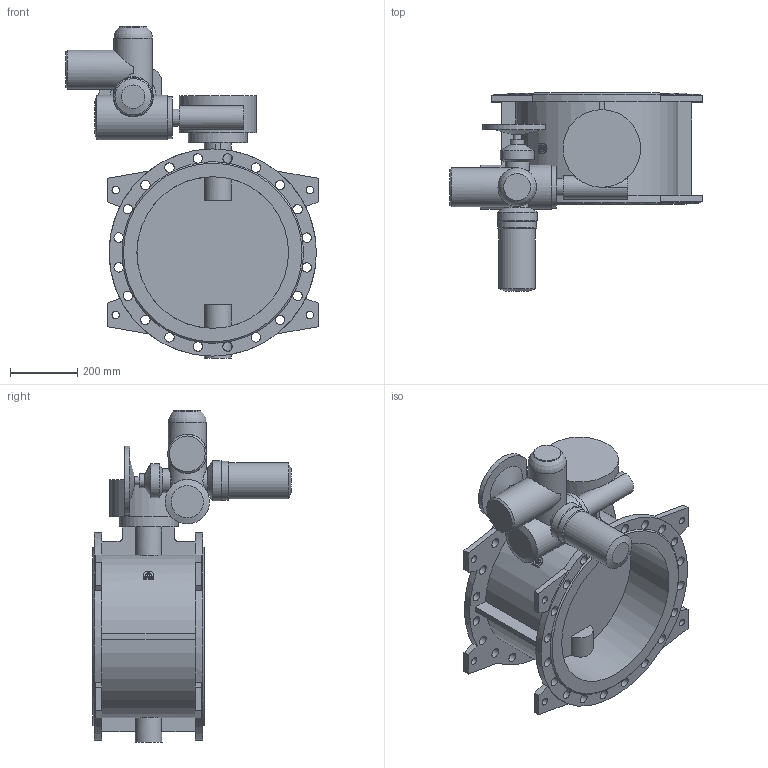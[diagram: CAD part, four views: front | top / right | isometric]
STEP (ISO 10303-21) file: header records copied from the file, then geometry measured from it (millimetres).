
FILE_DESCRIPTION(('STEP AP203'), '1');
FILE_NAME('Çàòâîð 023F.Z DN450 PN10 + ðåäóêòîð + ÌÒ903.À10', '', ('UNSPECIFIED'), ('UNSPECIFIED'), 'ASCON STEP Converter 1.6', 'ASCON Math Kernel', '');
FILE_SCHEMA(('CONFIG_CONTROL_DESIGN'));
Length unit declared in the file: millimetre
Bounding box: 749 x 588 x 985 mm (x, y, z)
Volume: 38284625.2 mm3; surface area: 2651538.4 mm2
Topology: 1 solids, 1 shells, 228 faces, 681 edges, 448 vertices
Faces by surface type: plane 109, cylinder 107, cone 11, torus 1
Full cylindrical faces by diameter (mm): 8.5 x4, 12 x4, 14 x4, 18 x4, 22 x8, 24 x1, 28 x40, 42 x1, 50 x1, 66 x1, 70 x1, 72 x1, 80 x2, 100 x1, 108 x1, 114 x1, 115 x1, 116 x1, 119 x1, 125 x1, 132 x1, 175 x1, 230 x1, 450 x2, 615 x2
Entity records: 13241 total; most frequent: CARTESIAN_POINT 5330, DIRECTION 1272, ORIENTED_EDGE 1158, EDGE_CURVE 579, AXIS2_PLACEMENT_3D 539, VERTEX_POINT 447, EDGE_LOOP 418, CIRCLE 311
